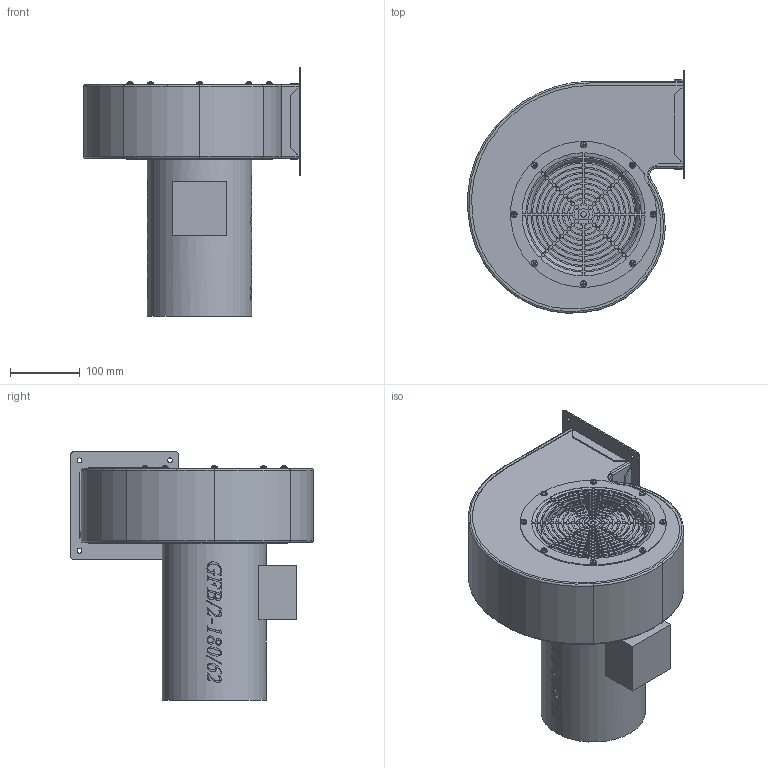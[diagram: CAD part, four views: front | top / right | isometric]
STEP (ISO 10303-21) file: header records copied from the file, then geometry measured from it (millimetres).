
FILE_DESCRIPTION(/* description */ (''),/* implementation_level */ '2;1');
FILE_NAME(/* name */ 'E:\Mariusz\Modele uproszczone\GFB\GFB_2_180_62 LG270 435030140\GFB_2_180_62 LG270 435030140\GFB_2_180_62 LG270 435030140.stp',/* time_stamp */ '2019-01-14T09:17:37+01:00',/* author */ ('M.Janczarek'),/* organization */ (''),/* preprocessor_version */ 'ST-DEVELOPER v16.13',/* originating_system */ 'Autodesk Inventor 2018',/* authorisation */ '');
FILE_SCHEMA (('AUTOMOTIVE_DESIGN { 1 0 10303 214 3 1 1 }'));
Length unit declared in the file: millimetre
Products named in the file (1): GFB_2_180_62 LG270 435030140
Bounding box: 311.73 x 348.4 x 357.5 mm (x, y, z)
Surface area: 469655 mm2 (no closed solid volume)
Topology: 0 solids, 1 shells, 1593 faces, 4590 edges, 3043 vertices
Faces by surface type: cylinder 621, plane 421, bspline 382, cone 112, torus 49, sphere 8
Full cylindrical faces by diameter (mm): 7.1 x4, 8 x1, 9 x8, 149.9 x1, 150 x1
Entity records: 62550 total; most frequent: CARTESIAN_POINT 21289, ORIENTED_EDGE 9010, DIRECTION 7611, EDGE_CURVE 4505, VERTEX_POINT 3002, AXIS2_PLACEMENT_3D 2884, LINE 1843, VECTOR 1843
